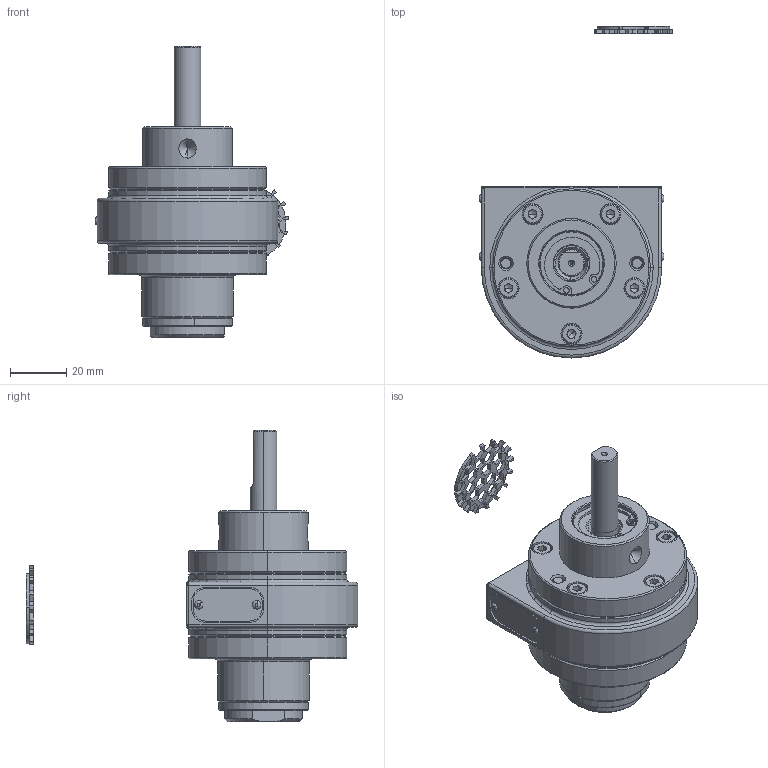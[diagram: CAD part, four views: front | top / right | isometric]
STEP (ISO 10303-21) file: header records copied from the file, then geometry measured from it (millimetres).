
FILE_DESCRIPTION (( 'STEP AP214' ), '1' );
FILE_NAME ('1VMT-SGI-ext comp..STEP', '2026-04-22T04:24:13', ( '' ), ( '' ), 'SwSTEP 2.0', 'SolidWorks 2017', '' );
FILE_SCHEMA (( 'AUTOMOTIVE_DESIGN' ));
Length unit declared in the file: millimetre
Products named in the file (2): 1VMT-SGI-ext comp.
Bounding box: 68.79 x 117.78 x 103.42 mm (x, y, z)
Volume: 74777.7 mm3; surface area: 44118.5 mm2
Topology: 30 solids, 30 shells, 977 faces, 2422 edges, 1499 vertices
Faces by surface type: plane 414, cylinder 284, cone 204, torus 69, bspline 6
Entity records: 42909 total; most frequent: CARTESIAN_POINT 7184, DIRECTION 5399, ORIENTED_EDGE 4962, EDGE_CURVE 2481, AXIS2_PLACEMENT_3D 2051, VERTEX_POINT 1559, VECTOR 1297, LINE 1297
